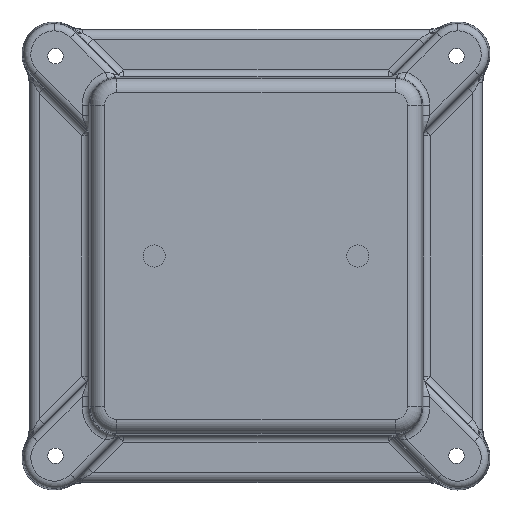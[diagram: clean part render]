
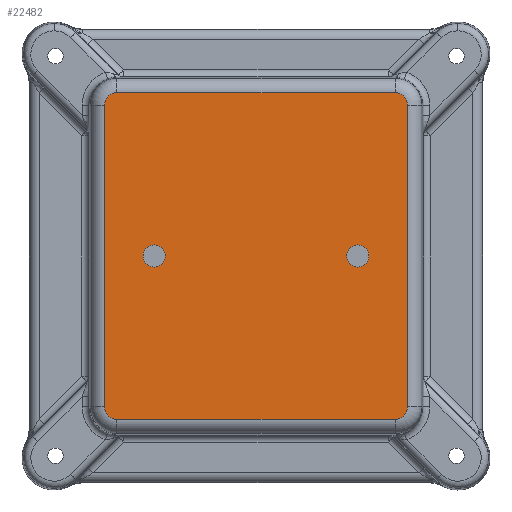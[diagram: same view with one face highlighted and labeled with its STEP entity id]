
A CAD part, front view. The second image highlights one B-rep face of the part: STEP entity #22482.
In plain terms, the highlighted planar face has unit normal (0, -1, 0).
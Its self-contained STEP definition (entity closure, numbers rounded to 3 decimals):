
#11 = DIRECTION ( 'NONE',  ( 0., 0., 1. ) ) ;
#178 = VECTOR ( 'NONE', #840, 1000. ) ;
#402 = EDGE_CURVE ( 'NONE', #3711, #6157, #10957, .T. ) ;
#479 = DIRECTION ( 'NONE',  ( 0., 0., -1. ) ) ;
#772 = CARTESIAN_POINT ( 'NONE',  ( -29.425, -29.9, -34.543 ) ) ;
#840 = DIRECTION ( 'NONE',  ( 1., 0., 0. ) ) ;
#1203 = CARTESIAN_POINT ( 'NONE',  ( 29.425, -29.9, -34.543 ) ) ;
#1220 = LINE ( 'NONE', #13949, #9451 ) ;
#1517 = CARTESIAN_POINT ( 'NONE',  ( -32.043, -29.9, 31.925 ) ) ;
#1849 = AXIS2_PLACEMENT_3D ( 'NONE', #18687, #14972, #16654 ) ;
#2218 = ORIENTED_EDGE ( 'NONE', *, *, #3905, .F. ) ;
#2353 = EDGE_CURVE ( 'NONE', #21923, #8827, #19071, .T. ) ;
#2747 = EDGE_CURVE ( 'NONE', #17709, #16474, #2861, .T. ) ;
#2861 = CIRCLE ( 'NONE', #19767, 2.617 ) ;
#3444 = CARTESIAN_POINT ( 'NONE',  ( -32.043, -29.9, -31.925 ) ) ;
#3711 = VERTEX_POINT ( 'NONE', #1203 ) ;
#3905 = EDGE_CURVE ( 'NONE', #10884, #6738, #5130, .T. ) ;
#3921 = DIRECTION ( 'NONE',  ( 0., -1., 0. ) ) ;
#3983 = VERTEX_POINT ( 'NONE', #22966 ) ;
#4012 = ORIENTED_EDGE ( 'NONE', *, *, #4215, .T. ) ;
#4081 = CARTESIAN_POINT ( 'NONE',  ( -21.55, -29.9, 0. ) ) ;
#4215 = EDGE_CURVE ( 'NONE', #16474, #8810, #22722, .T. ) ;
#4597 = EDGE_CURVE ( 'NONE', #6748, #13334, #16339, .T. ) ;
#4650 = CIRCLE ( 'NONE', #4978, 2.617 ) ;
#4781 = ORIENTED_EDGE ( 'NONE', *, *, #19986, .T. ) ;
#4928 = DIRECTION ( 'NONE',  ( 0., 0., 1. ) ) ;
#4978 = AXIS2_PLACEMENT_3D ( 'NONE', #12260, #17869, #4928 ) ;
#5039 = CARTESIAN_POINT ( 'NONE',  ( -21.55, -29.9, -2.35 ) ) ;
#5130 = CIRCLE ( 'NONE', #1849, 2.35 ) ;
#5199 = DIRECTION ( 'NONE',  ( 0., 0., 1. ) ) ;
#6157 = VERTEX_POINT ( 'NONE', #23192 ) ;
#6322 = FACE_BOUND ( 'NONE', #12883, .T. ) ;
#6395 = CARTESIAN_POINT ( 'NONE',  ( -29.425, -29.9, 31.925 ) ) ;
#6631 = CARTESIAN_POINT ( 'NONE',  ( 21.55, -29.9, 0. ) ) ;
#6648 = CARTESIAN_POINT ( 'NONE',  ( 21.55, -29.9, 2.35 ) ) ;
#6722 = LINE ( 'NONE', #13394, #15233 ) ;
#6738 = VERTEX_POINT ( 'NONE', #5039 ) ;
#6748 = VERTEX_POINT ( 'NONE', #6648 ) ;
#7207 = ORIENTED_EDGE ( 'NONE', *, *, #2353, .T. ) ;
#7800 = ORIENTED_EDGE ( 'NONE', *, *, #2747, .T. ) ;
#7992 = CIRCLE ( 'NONE', #22691, 2.35 ) ;
#8088 = DIRECTION ( 'NONE',  ( 0., 1., 0. ) ) ;
#8316 = DIRECTION ( 'NONE',  ( 0., 0., 1. ) ) ;
#8602 = AXIS2_PLACEMENT_3D ( 'NONE', #8864, #19417, #14043 ) ;
#8640 = ORIENTED_EDGE ( 'NONE', *, *, #12740, .T. ) ;
#8810 = VERTEX_POINT ( 'NONE', #3444 ) ;
#8827 = VERTEX_POINT ( 'NONE', #17997 ) ;
#8864 = CARTESIAN_POINT ( 'NONE',  ( 21.55, -29.9, 0. ) ) ;
#8949 = CARTESIAN_POINT ( 'NONE',  ( 29.425, -29.9, -31.925 ) ) ;
#9246 = DIRECTION ( 'NONE',  ( 0., -1., 0. ) ) ;
#9319 = AXIS2_PLACEMENT_3D ( 'NONE', #4081, #11633, #9722 ) ;
#9451 = VECTOR ( 'NONE', #5199, 1000. ) ;
#9722 = DIRECTION ( 'NONE',  ( 0., 0., -1. ) ) ;
#9734 = DIRECTION ( 'NONE',  ( 0., 0., 1. ) ) ;
#10201 = DIRECTION ( 'NONE',  ( 0., -1., 0. ) ) ;
#10758 = ORIENTED_EDGE ( 'NONE', *, *, #13901, .F. ) ;
#10884 = VERTEX_POINT ( 'NONE', #13743 ) ;
#10932 = CARTESIAN_POINT ( 'NONE',  ( 29.425, -29.9, 31.925 ) ) ;
#10957 = CIRCLE ( 'NONE', #14017, 2.617 ) ;
#11294 = ORIENTED_EDGE ( 'NONE', *, *, #402, .T. ) ;
#11582 = PLANE ( 'NONE',  #20547 ) ;
#11633 = DIRECTION ( 'NONE',  ( 0., -1., 0. ) ) ;
#12260 = CARTESIAN_POINT ( 'NONE',  ( -29.425, -29.9, -31.925 ) ) ;
#12740 = EDGE_CURVE ( 'NONE', #6157, #21923, #1220, .T. ) ;
#12883 = EDGE_LOOP ( 'NONE', ( #10758, #13163 ) ) ;
#13163 = ORIENTED_EDGE ( 'NONE', *, *, #4597, .F. ) ;
#13334 = VERTEX_POINT ( 'NONE', #14401 ) ;
#13394 = CARTESIAN_POINT ( 'NONE',  ( -29.425, -29.9, 34.543 ) ) ;
#13743 = CARTESIAN_POINT ( 'NONE',  ( -21.55, -29.9, 2.35 ) ) ;
#13795 = EDGE_CURVE ( 'NONE', #6738, #10884, #21909, .T. ) ;
#13901 = EDGE_CURVE ( 'NONE', #13334, #6748, #7992, .T. ) ;
#13949 = CARTESIAN_POINT ( 'NONE',  ( 32.043, -29.9, -31.925 ) ) ;
#14017 = AXIS2_PLACEMENT_3D ( 'NONE', #8949, #3921, #16661 ) ;
#14043 = DIRECTION ( 'NONE',  ( 0., 0., 1. ) ) ;
#14052 = EDGE_LOOP ( 'NONE', ( #7800, #4012, #4781, #16771, #11294, #8640, #7207, #20432 ) ) ;
#14401 = CARTESIAN_POINT ( 'NONE',  ( 21.55, -29.9, -2.35 ) ) ;
#14952 = CARTESIAN_POINT ( 'NONE',  ( -32.043, -29.9, -31.925 ) ) ;
#14972 = DIRECTION ( 'NONE',  ( 0., -1., 0. ) ) ;
#15233 = VECTOR ( 'NONE', #18613, 1000. ) ;
#15729 = FACE_OUTER_BOUND ( 'NONE', #14052, .T. ) ;
#16339 = CIRCLE ( 'NONE', #8602, 2.35 ) ;
#16474 = VERTEX_POINT ( 'NONE', #1517 ) ;
#16654 = DIRECTION ( 'NONE',  ( 0., 0., -1. ) ) ;
#16661 = DIRECTION ( 'NONE',  ( 0., 0., 1. ) ) ;
#16771 = ORIENTED_EDGE ( 'NONE', *, *, #17030, .T. ) ;
#17030 = EDGE_CURVE ( 'NONE', #3983, #3711, #22619, .T. ) ;
#17271 = DIRECTION ( 'NONE',  ( 0., -1., 0. ) ) ;
#17709 = VERTEX_POINT ( 'NONE', #22439 ) ;
#17869 = DIRECTION ( 'NONE',  ( 0., -1., 0. ) ) ;
#17916 = VECTOR ( 'NONE', #479, 1000. ) ;
#17997 = CARTESIAN_POINT ( 'NONE',  ( 29.425, -29.9, 34.543 ) ) ;
#18075 = EDGE_CURVE ( 'NONE', #8827, #17709, #6722, .T. ) ;
#18613 = DIRECTION ( 'NONE',  ( -1., 0., 0. ) ) ;
#18687 = CARTESIAN_POINT ( 'NONE',  ( -21.55, -29.9, 0. ) ) ;
#18707 = ORIENTED_EDGE ( 'NONE', *, *, #13795, .F. ) ;
#18733 = CARTESIAN_POINT ( 'NONE',  ( 32.043, -29.9, 31.925 ) ) ;
#19071 = CIRCLE ( 'NONE', #20087, 2.617 ) ;
#19417 = DIRECTION ( 'NONE',  ( 0., -1., 0. ) ) ;
#19767 = AXIS2_PLACEMENT_3D ( 'NONE', #6395, #17271, #9734 ) ;
#19986 = EDGE_CURVE ( 'NONE', #8810, #3983, #4650, .T. ) ;
#20087 = AXIS2_PLACEMENT_3D ( 'NONE', #10932, #9246, #11 ) ;
#20432 = ORIENTED_EDGE ( 'NONE', *, *, #18075, .T. ) ;
#20547 = AXIS2_PLACEMENT_3D ( 'NONE', #22734, #8088, #8316 ) ;
#20672 = EDGE_LOOP ( 'NONE', ( #18707, #2218 ) ) ;
#21909 = CIRCLE ( 'NONE', #9319, 2.35 ) ;
#21923 = VERTEX_POINT ( 'NONE', #18733 ) ;
#21949 = FACE_BOUND ( 'NONE', #20672, .T. ) ;
#22439 = CARTESIAN_POINT ( 'NONE',  ( -29.425, -29.9, 34.543 ) ) ;
#22482 = ADVANCED_FACE ( 'NONE', ( #21949, #6322, #15729 ), #11582, .F. ) ;
#22619 = LINE ( 'NONE', #772, #178 ) ;
#22691 = AXIS2_PLACEMENT_3D ( 'NONE', #6631, #10201, #22714 ) ;
#22714 = DIRECTION ( 'NONE',  ( 0., 0., 1. ) ) ;
#22722 = LINE ( 'NONE', #14952, #17916 ) ;
#22734 = CARTESIAN_POINT ( 'NONE',  ( -29.425, -29.9, -31.925 ) ) ;
#22966 = CARTESIAN_POINT ( 'NONE',  ( -29.425, -29.9, -34.543 ) ) ;
#23192 = CARTESIAN_POINT ( 'NONE',  ( 32.043, -29.9, -31.925 ) ) ;
